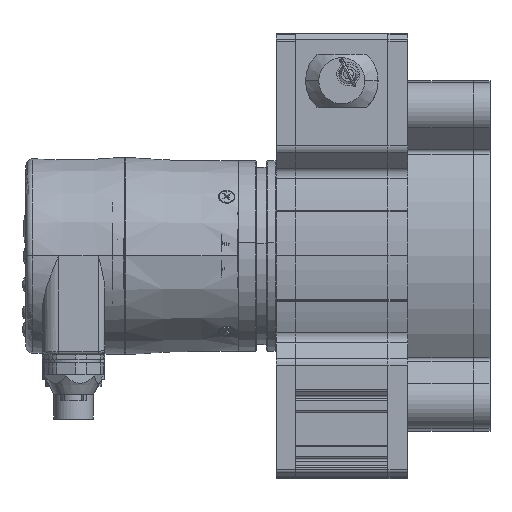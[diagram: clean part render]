
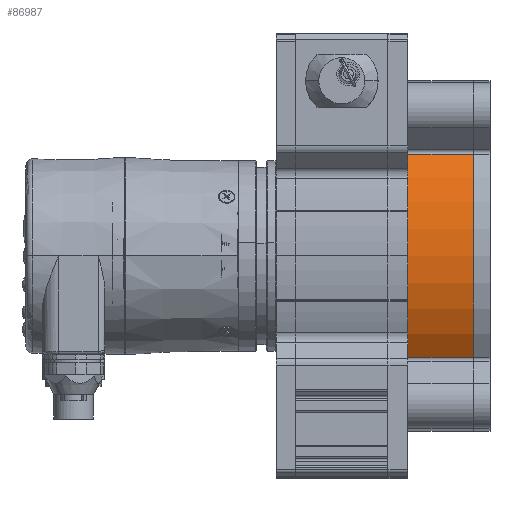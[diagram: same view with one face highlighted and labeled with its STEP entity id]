
A CAD part, top view. The second image highlights one B-rep face of the part: STEP entity #86987.
In plain terms, the highlighted cylindrical face has radius 53.25 mm (diameter 106.5 mm), a partial arc.
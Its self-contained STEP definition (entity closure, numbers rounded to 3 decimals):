
#28722 = DIRECTION ( 'NONE',  ( -1., 0., 0. ) ) ;
#28724 = VECTOR ( 'NONE', #28722, 1000. ) ;
#28727 = CARTESIAN_POINT ( 'NONE',  ( -106.313, 69.367, 24.687 ) ) ;
#28729 = LINE ( 'NONE', #28727, #28724 ) ;
#29178 = CARTESIAN_POINT ( 'NONE',  ( 44.567, 69.367, 24.687 ) ) ;
#29519 = CARTESIAN_POINT ( 'NONE',  ( 64.567, 69.367, 24.687 ) ) ;
#31129 = CARTESIAN_POINT ( 'NONE',  ( 44.567, 7.597, 24.687 ) ) ;
#31160 = DIRECTION ( 'NONE',  ( 1., 0., 0. ) ) ;
#31161 = VECTOR ( 'NONE', #31160, 1000. ) ;
#31162 = CARTESIAN_POINT ( 'NONE',  ( -106.313, 7.597, 24.687 ) ) ;
#31163 = LINE ( 'NONE', #31162, #31161 ) ;
#31220 = CARTESIAN_POINT ( 'NONE',  ( 64.567, 7.597, 24.687 ) ) ;
#34010 = DIRECTION ( 'NONE',  ( 0., 1., 0. ) ) ;
#34012 = DIRECTION ( 'NONE',  ( 1., 0., 0. ) ) ;
#34013 = CARTESIAN_POINT ( 'NONE',  ( 64.567, 38.482, -18.691 ) ) ;
#34014 = AXIS2_PLACEMENT_3D ( 'NONE', #34013, #34012, #34010 ) ;
#34022 = CIRCLE ( 'NONE', #34014, 53.25 ) ;
#34063 = FACE_OUTER_BOUND ( 'NONE', #86862, .T. ) ;
#34064 = DIRECTION ( 'NONE',  ( 0., 1., 0. ) ) ;
#34066 = DIRECTION ( 'NONE',  ( 1., 0., 0. ) ) ;
#34067 = CARTESIAN_POINT ( 'NONE',  ( 44.567, 38.482, -18.691 ) ) ;
#34068 = AXIS2_PLACEMENT_3D ( 'NONE', #34067, #34066, #34064 ) ;
#34069 = CIRCLE ( 'NONE', #34068, 53.25 ) ;
#34124 = DIRECTION ( 'NONE',  ( 0., 1., 0. ) ) ;
#34127 = DIRECTION ( 'NONE',  ( -1., 0., 0. ) ) ;
#34128 = CARTESIAN_POINT ( 'NONE',  ( -106.313, 38.482, -18.691 ) ) ;
#34130 = AXIS2_PLACEMENT_3D ( 'NONE', #34128, #34127, #34124 ) ;
#34135 = CYLINDRICAL_SURFACE ( 'NONE', #34130, 53.25 ) ;
#78670 = EDGE_CURVE ( 'NONE', #79699, #79189, #28729, .T. ) ;
#79189 = VERTEX_POINT ( 'NONE', #29178 ) ;
#79699 = VERTEX_POINT ( 'NONE', #29519 ) ;
#80166 = VERTEX_POINT ( 'NONE', #31129 ) ;
#80179 = EDGE_CURVE ( 'NONE', #80166, #80191, #31163, .T. ) ;
#80191 = VERTEX_POINT ( 'NONE', #31220 ) ;
#86816 = ORIENTED_EDGE ( 'NONE', *, *, #86962, .F. ) ;
#86856 = ORIENTED_EDGE ( 'NONE', *, *, #80179, .T. ) ;
#86862 = EDGE_LOOP ( 'NONE', ( #86877, #86938, #86856, #86816 ) ) ;
#86877 = ORIENTED_EDGE ( 'NONE', *, *, #78670, .T. ) ;
#86938 = ORIENTED_EDGE ( 'NONE', *, *, #86979, .T. ) ;
#86962 = EDGE_CURVE ( 'NONE', #79699, #80191, #34022, .T. ) ;
#86979 = EDGE_CURVE ( 'NONE', #79189, #80166, #34069, .T. ) ;
#86987 = ADVANCED_FACE ( 'NONE', ( #34063 ), #34135, .T. ) ;
